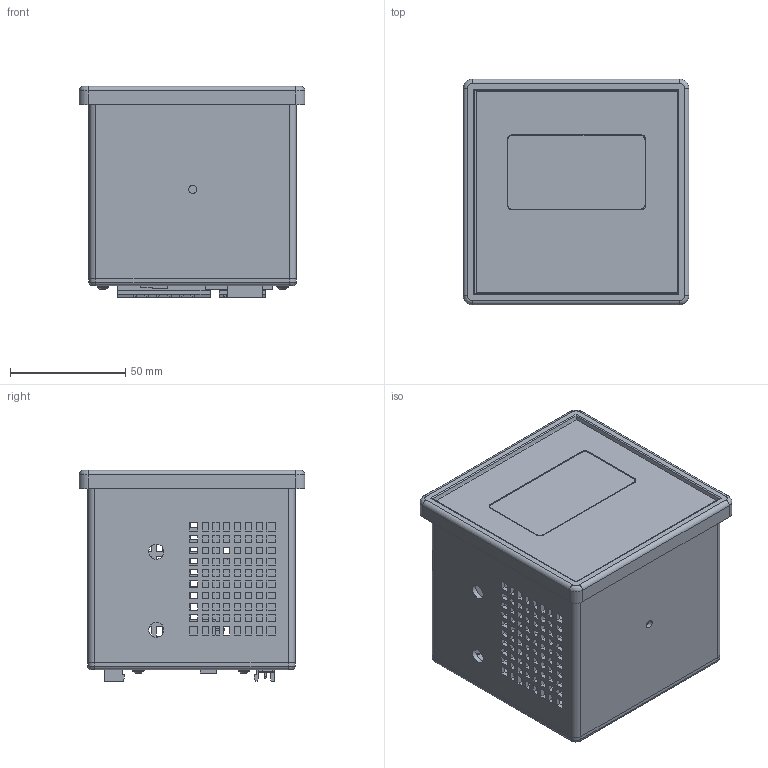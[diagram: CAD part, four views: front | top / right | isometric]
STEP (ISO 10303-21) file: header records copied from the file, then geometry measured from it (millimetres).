
FILE_DESCRIPTION(/* description */ (''),/* implementation_level */ '2;1');
FILE_NAME(/* name */ 'T:\EngMecanica\DESENHOS INVENTOR\Catalogo 2019\Arquivos STEP\Konect GRAFIC.stp',/* time_stamp */ '2025-04-10T10:22:05-03:00',/* author */ ('jose.luis'),/* organization */ (''),/* preprocessor_version */ 'ST-DEVELOPER v18.1',/* originating_system */ 'Autodesk Inventor 2021',/* authorisation */ '');
FILE_SCHEMA (('AUTOMOTIVE_DESIGN { 1 0 10303 214 3 1 1 }'));
Products named in the file (19): Konect GRAFIC; Caixa; Moldura; 1754478; 1754452; 1776731; Nut GB 809 A M2 x 3; Placa proteção; RJ12 femea; Chapinha RJ12 femea; Display Konect GRAFIC; Membrana Konect grafic; Diplay konect Grafic 1; Visor Konect Grafic; Display 5; Tampa traseira Konect Grafic; Borne 3 vias; Borne 8 vias; AS 1427 - M2,5 x 4
Assembly tree (22 placements, depth 3):
  Konect GRAFIC
    Caixa
    Moldura
    1754478
    1754452
    1776731
    Nut GB 809 A M2 x 3  x2
    Placa proteção
    RJ12 femea
    Chapinha RJ12 femea
    Display Konect GRAFIC
      Membrana Konect grafic
      Diplay konect Grafic 1
      Visor Konect Grafic
    Display 5
    Tampa traseira Konect Grafic
    Borne 3 vias
    Borne 8 vias
    AS 1427 - M2,5 x 4  x4
Bounding box: 98 x 98 x 91.74 mm (x, y, z)
Volume: 132950.2 mm3; surface area: 147149 mm2
Topology: 22 solids, 22 shells, 3705 faces, 9601 edges, 6062 vertices
Faces by surface type: plane 2822, cylinder 637, cone 132, bspline 58, torus 48, sphere 8
Full cylindrical faces by diameter (mm): 1.567 x2, 2.224 x4, 2.5 x4, 3 x6, 3.5 x1, 4 x4, 6.5 x4
Entity records: 117323 total; most frequent: CARTESIAN_POINT 25449, ORIENTED_EDGE 18498, DIRECTION 17716, EDGE_CURVE 9249, LINE 7134, VECTOR 7134, VERTEX_POINT 5835, AXIS2_PLACEMENT_3D 5291
